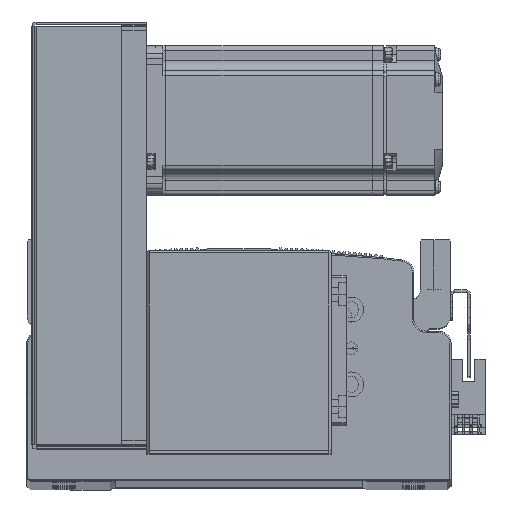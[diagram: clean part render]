
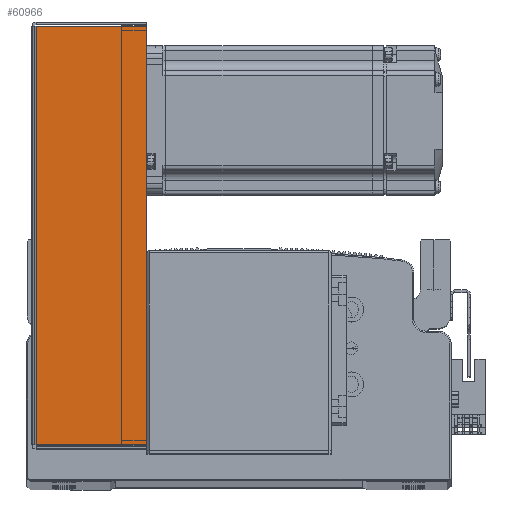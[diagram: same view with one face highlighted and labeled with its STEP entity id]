
A CAD part, top view. The second image highlights one B-rep face of the part: STEP entity #60966.
In plain terms, the highlighted planar face has unit normal (0, 0, 1) as drawn and (0, 0, -1) by its records, which use the part's own axes.
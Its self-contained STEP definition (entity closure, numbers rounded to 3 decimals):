
#754 = VECTOR ( 'NONE', #87171, 1000. ) ;
#764 = LINE ( 'NONE', #87170, #754 ) ;
#783 = VECTOR ( 'NONE', #87221, 1000. ) ;
#806 = LINE ( 'NONE', #87228, #783 ) ;
#837 = LINE ( 'NONE', #87387, #840 ) ;
#840 = VECTOR ( 'NONE', #87370, 1000. ) ;
#4922 = EDGE_CURVE ( 'NONE', #57930, #57965, #764, .T. ) ;
#4930 = EDGE_CURVE ( 'NONE', #58087, #57965, #806, .T. ) ;
#4975 = EDGE_CURVE ( 'NONE', #58064, #58087, #837, .T. ) ;
#6458 = EDGE_CURVE ( 'NONE', #58064, #57930, #82450, .T. ) ;
#30526 = CARTESIAN_POINT ( 'NONE',  ( 0., 0.737, -40.5 ) ) ;
#30603 = DIRECTION ( 'NONE',  ( 1., 0., 0. ) ) ;
#38950 = ORIENTED_EDGE ( 'NONE', *, *, #6458, .F. ) ;
#38957 = ORIENTED_EDGE ( 'NONE', *, *, #4930, .T. ) ;
#38966 = ORIENTED_EDGE ( 'NONE', *, *, #4975, .T. ) ;
#38980 = ORIENTED_EDGE ( 'NONE', *, *, #4922, .F. ) ;
#41937 = AXIS2_PLACEMENT_3D ( 'NONE', #47623, #47624, #47625 ) ;
#44961 = CARTESIAN_POINT ( 'NONE',  ( 83.793, 0.737, -40.5 ) ) ;
#45011 = CARTESIAN_POINT ( 'NONE',  ( 83.793, 45., -40.5 ) ) ;
#45068 = CARTESIAN_POINT ( 'NONE',  ( -83.793, 0.737, -40.5 ) ) ;
#45103 = CARTESIAN_POINT ( 'NONE',  ( -83.793, 45., -40.5 ) ) ;
#46083 = FACE_OUTER_BOUND ( 'NONE', #50565, .T. ) ;
#47623 = CARTESIAN_POINT ( 'NONE',  ( 0., 0., -40.5 ) ) ;
#47624 = DIRECTION ( 'NONE',  ( 0., 0., 1. ) ) ;
#47625 = DIRECTION ( 'NONE',  ( 0., -1., 0. ) ) ;
#47633 = PLANE ( 'NONE',  #41937 ) ;
#50565 = EDGE_LOOP ( 'NONE', ( #38950, #38966, #38957, #38980 ) ) ;
#57930 = VERTEX_POINT ( 'NONE', #44961 ) ;
#57965 = VERTEX_POINT ( 'NONE', #45011 ) ;
#58064 = VERTEX_POINT ( 'NONE', #45068 ) ;
#58087 = VERTEX_POINT ( 'NONE', #45103 ) ;
#60966 = ADVANCED_FACE ( 'NONE', ( #46083 ), #47633, .F. ) ;
#82450 = LINE ( 'NONE', #30526, #82459 ) ;
#82459 = VECTOR ( 'NONE', #30603, 1000. ) ;
#87170 = CARTESIAN_POINT ( 'NONE',  ( 83.793, 0., -40.5 ) ) ;
#87171 = DIRECTION ( 'NONE',  ( 0., 1., 0. ) ) ;
#87221 = DIRECTION ( 'NONE',  ( 1., 0., 0. ) ) ;
#87228 = CARTESIAN_POINT ( 'NONE',  ( 84.5, 45., -40.5 ) ) ;
#87370 = DIRECTION ( 'NONE',  ( 0., 1., 0. ) ) ;
#87387 = CARTESIAN_POINT ( 'NONE',  ( -83.793, 0., -40.5 ) ) ;
